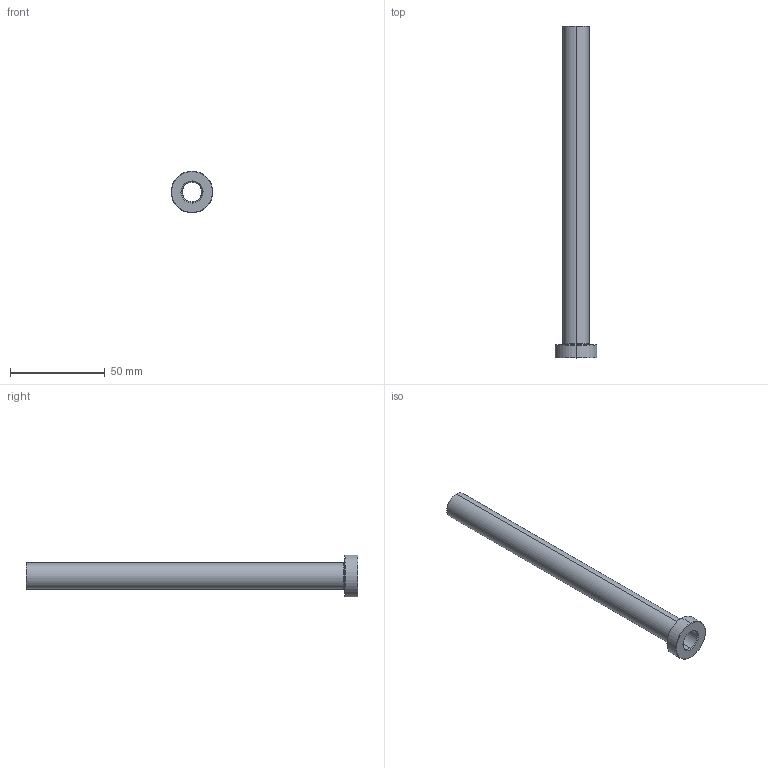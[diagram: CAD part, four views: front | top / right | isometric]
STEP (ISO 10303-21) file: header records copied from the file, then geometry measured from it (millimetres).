
FILE_DESCRIPTION (( 'STEP AP203' ), '1' );
FILE_NAME ('ESD102L175.step', '2022-02-04T23:40:40', ( 'Microsoft Corporation' ), ( 'MS' ), 'SwSTEP 2.0', 'SolidWorks 2019', '' );
FILE_SCHEMA (( 'CONFIG_CONTROL_DESIGN' ));
Length unit declared in the file: millimetre
Products named in the file (1): ESD102L175
Bounding box: 22 x 175 x 22 mm (x, y, z)
Volume: 13282.8 mm3; surface area: 14213.2 mm2
Topology: 1 solids, 1 shells, 21 faces, 42 edges, 24 vertices
Faces by surface type: cone 8, cylinder 8, plane 3, torus 2
Entity records: 627 total; most frequent: DIRECTION 112, CARTESIAN_POINT 88, ORIENTED_EDGE 84, AXIS2_PLACEMENT_3D 48, EDGE_CURVE 42, CIRCLE 26, EDGE_LOOP 24, VERTEX_POINT 24
